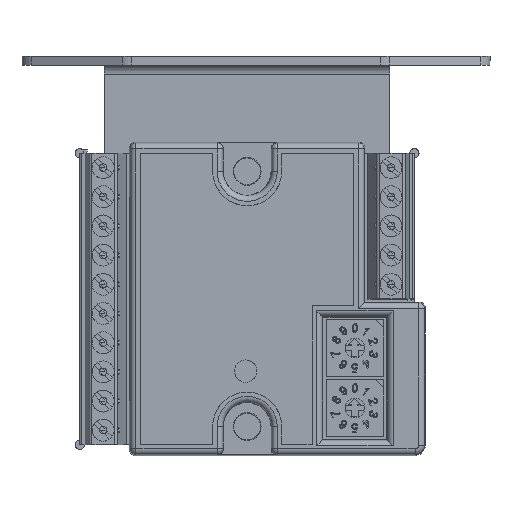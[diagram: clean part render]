
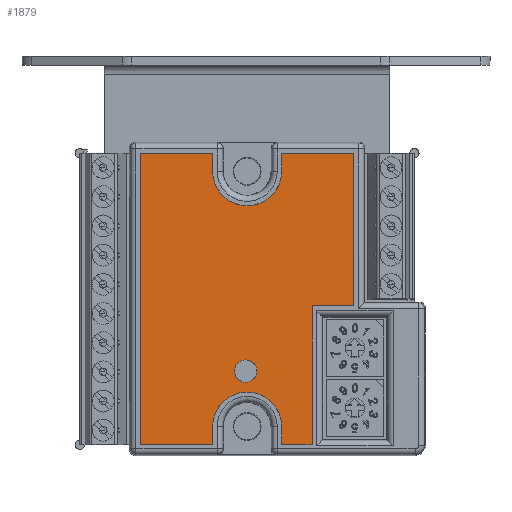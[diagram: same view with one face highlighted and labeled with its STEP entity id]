
A CAD part, top view. The second image highlights one B-rep face of the part: STEP entity #1879.
In plain terms, the highlighted planar face has unit normal (0, 0, 1).
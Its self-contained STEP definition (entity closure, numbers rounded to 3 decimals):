
#1747=CARTESIAN_POINT('',(-31.519,-19.674,22.95));
#1748=DIRECTION('',(0.0,0.0,1.0));
#1749=DIRECTION('',(0.0,-1.0,0.0));
#1750=AXIS2_PLACEMENT_3D('',#1747,#1748,#1749);
#1751=PLANE('',#1750);
#1752=CARTESIAN_POINT('',(-12.069,4.796,22.95));
#1753=VERTEX_POINT('',#1752);
#1754=CARTESIAN_POINT('',(-24.64,4.796,22.95));
#1755=VERTEX_POINT('',#1754);
#1756=CARTESIAN_POINT('',(-12.069,4.796,22.95));
#1757=DIRECTION('',(-1.0,0.0,0.0));
#1758=VECTOR('',#1757,12.571);
#1759=LINE('',#1756,#1758);
#1760=EDGE_CURVE('',#1753,#1755,#1759,.T.);
#1761=ORIENTED_EDGE('',*,*,#1760,.T.);
#1762=CARTESIAN_POINT('',(-24.64,1.681,22.95));
#1763=VERTEX_POINT('',#1762);
#1764=CARTESIAN_POINT('',(-24.64,4.796,22.95));
#1765=DIRECTION('',(0.0,-1.0,0.0));
#1766=VECTOR('',#1765,3.115);
#1767=LINE('',#1764,#1766);
#1768=EDGE_CURVE('',#1755,#1763,#1767,.T.);
#1769=ORIENTED_EDGE('',*,*,#1768,.T.);
#1770=CARTESIAN_POINT('',(-36.657,1.681,22.95));
#1771=VERTEX_POINT('',#1770);
#1772=CARTESIAN_POINT('',(-30.649,1.681,22.95));
#1773=DIRECTION('',(0.0,0.0,-1.0));
#1774=DIRECTION('',(-1.0,0.0,0.0));
#1775=AXIS2_PLACEMENT_3D('',#1772,#1773,#1774);
#1776=CIRCLE('',#1775,6.009);
#1777=EDGE_CURVE('',#1763,#1771,#1776,.T.);
#1778=ORIENTED_EDGE('',*,*,#1777,.T.);
#1779=CARTESIAN_POINT('',(-36.657,4.796,22.95));
#1780=VERTEX_POINT('',#1779);
#1781=CARTESIAN_POINT('',(-36.657,1.681,22.95));
#1782=DIRECTION('',(0.0,1.0,0.0));
#1783=VECTOR('',#1782,3.115);
#1784=LINE('',#1781,#1783);
#1785=EDGE_CURVE('',#1771,#1780,#1784,.T.);
#1786=ORIENTED_EDGE('',*,*,#1785,.T.);
#1787=CARTESIAN_POINT('',(-49.229,4.796,22.95));
#1788=VERTEX_POINT('',#1787);
#1789=CARTESIAN_POINT('',(-36.657,4.796,22.95));
#1790=DIRECTION('',(-1.0,0.0,0.0));
#1791=VECTOR('',#1790,12.571);
#1792=LINE('',#1789,#1791);
#1793=EDGE_CURVE('',#1780,#1788,#1792,.T.);
#1794=ORIENTED_EDGE('',*,*,#1793,.T.);
#1795=CARTESIAN_POINT('',(-49.229,-45.884,22.95));
#1796=VERTEX_POINT('',#1795);
#1797=CARTESIAN_POINT('',(-49.229,4.796,22.95));
#1798=DIRECTION('',(0.0,-1.0,0.0));
#1799=VECTOR('',#1798,50.68);
#1800=LINE('',#1797,#1799);
#1801=EDGE_CURVE('',#1788,#1796,#1800,.T.);
#1802=ORIENTED_EDGE('',*,*,#1801,.T.);
#1803=CARTESIAN_POINT('',(-36.657,-45.884,22.95));
#1804=VERTEX_POINT('',#1803);
#1805=CARTESIAN_POINT('',(-49.229,-45.884,22.95));
#1806=DIRECTION('',(1.0,0.0,0.0));
#1807=VECTOR('',#1806,12.571);
#1808=LINE('',#1805,#1807);
#1809=EDGE_CURVE('',#1796,#1804,#1808,.T.);
#1810=ORIENTED_EDGE('',*,*,#1809,.T.);
#1811=CARTESIAN_POINT('',(-36.657,-42.769,22.95));
#1812=VERTEX_POINT('',#1811);
#1813=CARTESIAN_POINT('',(-36.657,-45.884,22.95));
#1814=DIRECTION('',(0.0,1.0,0.0));
#1815=VECTOR('',#1814,3.115);
#1816=LINE('',#1813,#1815);
#1817=EDGE_CURVE('',#1804,#1812,#1816,.T.);
#1818=ORIENTED_EDGE('',*,*,#1817,.T.);
#1819=CARTESIAN_POINT('',(-24.64,-42.769,22.95));
#1820=VERTEX_POINT('',#1819);
#1821=CARTESIAN_POINT('',(-30.649,-42.769,22.95));
#1822=DIRECTION('',(0.0,0.0,-1.0));
#1823=DIRECTION('',(1.0,0.0,0.0));
#1824=AXIS2_PLACEMENT_3D('',#1821,#1822,#1823);
#1825=CIRCLE('',#1824,6.009);
#1826=EDGE_CURVE('',#1812,#1820,#1825,.T.);
#1827=ORIENTED_EDGE('',*,*,#1826,.T.);
#1828=CARTESIAN_POINT('',(-24.64,-45.884,22.95));
#1829=VERTEX_POINT('',#1828);
#1830=CARTESIAN_POINT('',(-24.64,-42.769,22.95));
#1831=DIRECTION('',(0.0,-1.0,0.0));
#1832=VECTOR('',#1831,3.115);
#1833=LINE('',#1830,#1832);
#1834=EDGE_CURVE('',#1820,#1829,#1833,.T.);
#1835=ORIENTED_EDGE('',*,*,#1834,.T.);
#1836=CARTESIAN_POINT('',(-19.35,-45.884,22.95));
#1837=VERTEX_POINT('',#1836);
#1838=CARTESIAN_POINT('',(-24.64,-45.884,22.95));
#1839=DIRECTION('',(1.0,0.0,0.0));
#1840=VECTOR('',#1839,5.289);
#1841=LINE('',#1838,#1840);
#1842=EDGE_CURVE('',#1829,#1837,#1841,.T.);
#1843=ORIENTED_EDGE('',*,*,#1842,.T.);
#1844=CARTESIAN_POINT('',(-19.35,-21.747,22.95));
#1845=VERTEX_POINT('',#1844);
#1846=CARTESIAN_POINT('',(-19.35,-45.884,22.95));
#1847=DIRECTION('',(0.0,1.0,0.0));
#1848=VECTOR('',#1847,24.137);
#1849=LINE('',#1846,#1848);
#1850=EDGE_CURVE('',#1837,#1845,#1849,.T.);
#1851=ORIENTED_EDGE('',*,*,#1850,.T.);
#1852=CARTESIAN_POINT('',(-12.069,-21.747,22.95));
#1853=VERTEX_POINT('',#1852);
#1854=CARTESIAN_POINT('',(-19.35,-21.747,22.95));
#1855=DIRECTION('',(1.0,0.0,0.0));
#1856=VECTOR('',#1855,7.282);
#1857=LINE('',#1854,#1856);
#1858=EDGE_CURVE('',#1845,#1853,#1857,.T.);
#1859=ORIENTED_EDGE('',*,*,#1858,.T.);
#1860=CARTESIAN_POINT('',(-12.069,-21.747,22.95));
#1861=DIRECTION('',(0.0,1.0,0.0));
#1862=VECTOR('',#1861,26.542);
#1863=LINE('',#1860,#1862);
#1864=EDGE_CURVE('',#1853,#1753,#1863,.T.);
#1865=ORIENTED_EDGE('',*,*,#1864,.T.);
#1866=EDGE_LOOP('',(#1761,#1769,#1778,#1786,#1794,#1802,#1810,#1818,#1827,#1835,#1843,#1851,#1859,#1865));
#1867=FACE_OUTER_BOUND('',#1866,.T.);
#1868=CARTESIAN_POINT('',(-30.899,-31.159,22.95));
#1869=VERTEX_POINT('',#1868);
#1870=CARTESIAN_POINT('',(-30.899,-33.124,22.95));
#1871=DIRECTION('',(0.0,0.0,-1.0));
#1872=DIRECTION('',(0.0,-1.0,0.0));
#1873=AXIS2_PLACEMENT_3D('',#1870,#1871,#1872);
#1874=CIRCLE('',#1873,1.965);
#1875=EDGE_CURVE('',#1869,#1869,#1874,.T.);
#1876=ORIENTED_EDGE('',*,*,#1875,.T.);
#1877=EDGE_LOOP('',(#1876));
#1878=FACE_BOUND('',#1877,.T.);
#1879=ADVANCED_FACE('',(#1867,#1878),#1751,.T.);
